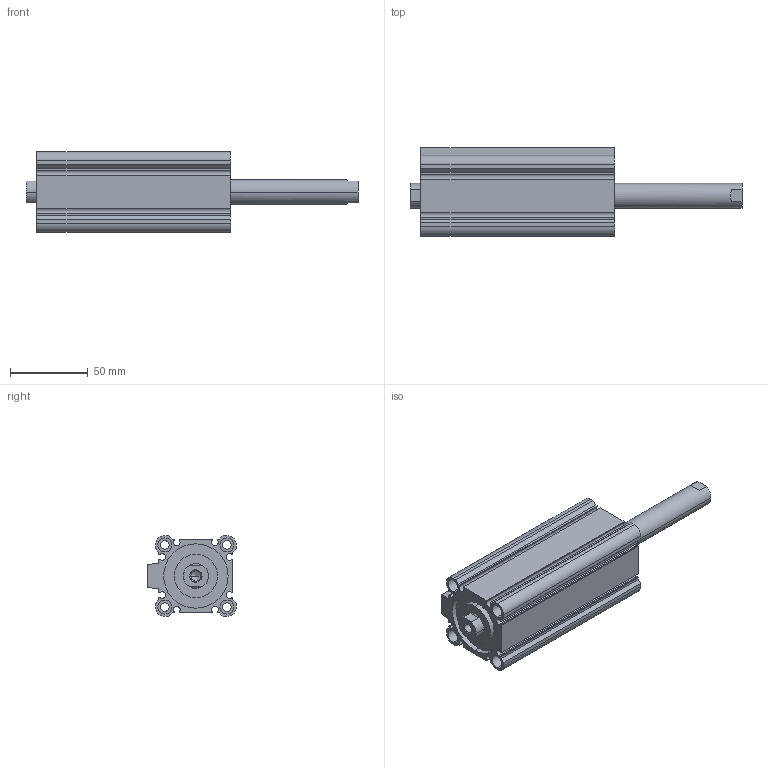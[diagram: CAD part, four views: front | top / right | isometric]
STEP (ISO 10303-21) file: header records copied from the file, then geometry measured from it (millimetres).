
FILE_DESCRIPTION (( 'STEP AP203' ), '1' );
FILE_NAME ('CCMB40-75F-P.STEP', '2020-08-05T11:25:35', ( '' ), ( '' ), 'SwSTEP 2.0', 'SolidWorks 2019', '' );
FILE_SCHEMA (( 'CONFIG_CONTROL_DESIGN' ));
Length unit declared in the file: millimetre
Products named in the file (1): CCMB40-75F-P
Bounding box: 214 x 57 x 52 mm (x, y, z)
Volume: 215278 mm3; surface area: 83041 mm2
Topology: 2 solids, 2 shells, 164 faces, 414 edges, 270 vertices
Faces by surface type: plane 78, cylinder 74, cone 12
Entity records: 5029 total; most frequent: DIRECTION 896, CARTESIAN_POINT 857, ORIENTED_EDGE 820, EDGE_CURVE 410, AXIS2_PLACEMENT_3D 325, VERTEX_POINT 270, LINE 246, VECTOR 246
